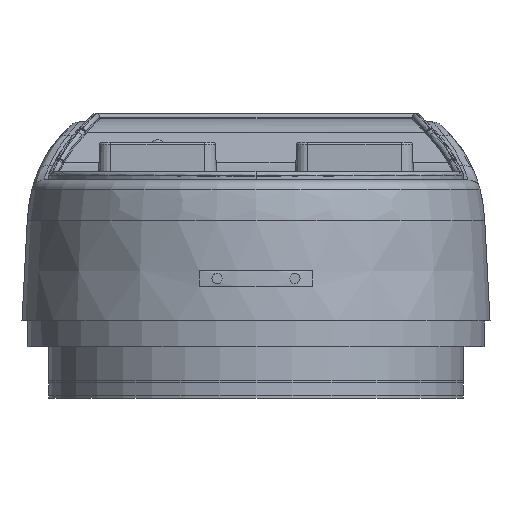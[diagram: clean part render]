
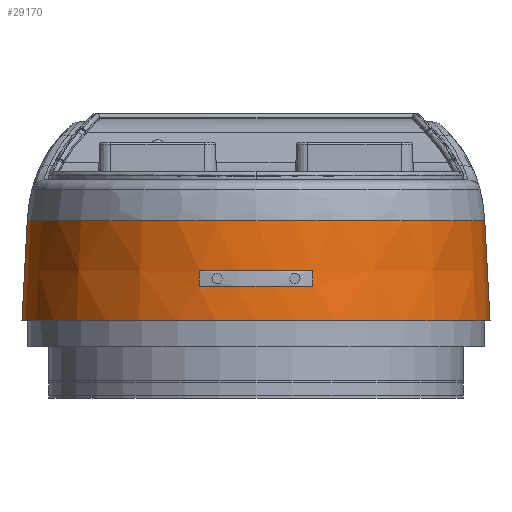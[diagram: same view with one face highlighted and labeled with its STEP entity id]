
A CAD part, front view. The second image highlights one B-rep face of the part: STEP entity #29170.
In plain terms, the highlighted conical face has half-angle 3 degrees and reference radius 22.55 mm.
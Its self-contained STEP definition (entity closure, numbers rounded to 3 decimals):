
#1274 = DIRECTION ( 'NONE',  ( 0., 0., 1. ) ) ;
#1505 = CARTESIAN_POINT ( 'NONE',  ( 0., -22.65, 9.15 ) ) ;
#1823 = CARTESIAN_POINT ( 'NONE',  ( 5.498, -44.284, 4.353 ) ) ;
#2349 = CARTESIAN_POINT ( 'NONE',  ( -22.07, -22.65, 9.15 ) ) ;
#4550 = CARTESIAN_POINT ( 'NONE',  ( 5.498, -44.311, 3.85 ) ) ;
#5348 =( BOUNDED_CURVE ( )  B_SPLINE_CURVE ( 3, ( #13005, #35825, #52684, #64049 ),
 .UNSPECIFIED., .F., .F. ) 
 B_SPLINE_CURVE_WITH_KNOTS ( ( 4, 4 ),
 ( 2.893, 3.39 ),
 .UNSPECIFIED. ) 
 CURVE ( )  GEOMETRIC_REPRESENTATION_ITEM ( )  RATIONAL_B_SPLINE_CURVE ( ( 1., 0.98, 0.98, 1. ) ) 
 REPRESENTATION_ITEM ( '' )  );
#5483 = VECTOR ( 'NONE', #69732, 1000. ) ;
#7301 = CARTESIAN_POINT ( 'NONE',  ( 5.499, -44.365, 2.846 ) ) ;
#10974 = ORIENTED_EDGE ( 'NONE', *, *, #25372, .F. ) ;
#12029 = B_SPLINE_CURVE_WITH_KNOTS ( 'NONE', 3,
 ( #65380, #49122, #65855, #20698 ),
 .UNSPECIFIED., .F., .F.,
 ( 4, 4 ),
 ( 0., 0.002 ),
 .UNSPECIFIED. ) ;
#13005 = CARTESIAN_POINT ( 'NONE',  ( 5.498, -44.284, 4.353 ) ) ;
#13153 = CIRCLE ( 'NONE', #22019, 22.07 ) ;
#13238 = DIRECTION ( 'NONE',  ( 0., 0., -1. ) ) ;
#13400 = CARTESIAN_POINT ( 'NONE',  ( 1.871, -45.285, 2.83 ) ) ;
#14197 = DIRECTION ( 'NONE',  ( 0.052, 0., -0.999 ) ) ;
#16361 = DIRECTION ( 'NONE',  ( 0., 0., -1. ) ) ;
#18515 = CARTESIAN_POINT ( 'NONE',  ( -1.871, -45.285, 2.83 ) ) ;
#18876 = EDGE_CURVE ( 'NONE', #58691, #20606, #31060, .T. ) ;
#19130 = ORIENTED_EDGE ( 'NONE', *, *, #37705, .F. ) ;
#19435 = EDGE_LOOP ( 'NONE', ( #49635, #66901, #63716, #19130 ) ) ;
#20606 = VERTEX_POINT ( 'NONE', #1823 ) ;
#20698 = CARTESIAN_POINT ( 'NONE',  ( -5.499, -44.365, 2.846 ) ) ;
#20895 = EDGE_CURVE ( 'NONE', #24563, #64374, #37588, .T. ) ;
#22019 = AXIS2_PLACEMENT_3D ( 'NONE', #1505, #1274, #61653 ) ;
#22866 = CARTESIAN_POINT ( 'NONE',  ( -5.499, -44.365, 2.846 ) ) ;
#24393 = CONICAL_SURFACE ( 'NONE', #68917, 22.55, 0.052 ) ;
#24563 = VERTEX_POINT ( 'NONE', #37380 ) ;
#25238 = CARTESIAN_POINT ( 'NONE',  ( -22.55, -22.65, 0. ) ) ;
#25372 = EDGE_CURVE ( 'NONE', #54248, #51714, #13153, .T. ) ;
#25573 = EDGE_CURVE ( 'NONE', #51714, #24563, #31433, .T. ) ;
#27206 =( BOUNDED_CURVE ( )  B_SPLINE_CURVE ( 3, ( #30155, #18515, #13400, #7301 ),
 .UNSPECIFIED., .F., .F. ) 
 B_SPLINE_CURVE_WITH_KNOTS ( ( 4, 4 ),
 ( 6.035, 6.531 ),
 .UNSPECIFIED. ) 
 CURVE ( )  GEOMETRIC_REPRESENTATION_ITEM ( )  RATIONAL_B_SPLINE_CURVE ( ( 1., 0.98, 0.98, 1. ) ) 
 REPRESENTATION_ITEM ( '' )  );
#27329 = EDGE_CURVE ( 'NONE', #67959, #28216, #12029, .T. ) ;
#27563 = DIRECTION ( 'NONE',  ( 1., 0., 0. ) ) ;
#28216 = VERTEX_POINT ( 'NONE', #22866 ) ;
#29170 = ADVANCED_FACE ( 'NONE', ( #39158, #36543 ), #24393, .T. ) ;
#30155 = CARTESIAN_POINT ( 'NONE',  ( -5.499, -44.365, 2.846 ) ) ;
#31060 = B_SPLINE_CURVE_WITH_KNOTS ( 'NONE', 3,
 ( #37891, #60305, #4550, #59824 ),
 .UNSPECIFIED., .F., .F.,
 ( 4, 4 ),
 ( 0., 0.002 ),
 .UNSPECIFIED. ) ;
#31433 = LINE ( 'NONE', #47028, #37488 ) ;
#33336 = EDGE_CURVE ( 'NONE', #54248, #64374, #65548, .T. ) ;
#34871 = EDGE_CURVE ( 'NONE', #20606, #67959, #5348, .T. ) ;
#35806 = CARTESIAN_POINT ( 'NONE',  ( -5.498, -44.284, 4.353 ) ) ;
#35825 = CARTESIAN_POINT ( 'NONE',  ( 1.871, -45.205, 4.369 ) ) ;
#35847 = ORIENTED_EDGE ( 'NONE', *, *, #25573, .F. ) ;
#36543 = FACE_BOUND ( 'NONE', #19435, .T. ) ;
#37380 = CARTESIAN_POINT ( 'NONE',  ( 22.576, -22.65, -0.5 ) ) ;
#37488 = VECTOR ( 'NONE', #14197, 1000. ) ;
#37588 = CIRCLE ( 'NONE', #60074, 22.576 ) ;
#37705 = EDGE_CURVE ( 'NONE', #28216, #58691, #27206, .T. ) ;
#37891 = CARTESIAN_POINT ( 'NONE',  ( 5.499, -44.365, 2.846 ) ) ;
#39158 = FACE_OUTER_BOUND ( 'NONE', #70085, .T. ) ;
#41019 = CARTESIAN_POINT ( 'NONE',  ( 22.07, -22.65, 9.15 ) ) ;
#41122 = CARTESIAN_POINT ( 'NONE',  ( -22.576, -22.65, -0.5 ) ) ;
#44228 = ORIENTED_EDGE ( 'NONE', *, *, #20895, .F. ) ;
#45066 = DIRECTION ( 'NONE',  ( -1., 0., 0. ) ) ;
#47028 = CARTESIAN_POINT ( 'NONE',  ( 22.55, -22.65, 0. ) ) ;
#49122 = CARTESIAN_POINT ( 'NONE',  ( -5.498, -44.311, 3.85 ) ) ;
#49635 = ORIENTED_EDGE ( 'NONE', *, *, #27329, .F. ) ;
#51714 = VERTEX_POINT ( 'NONE', #41019 ) ;
#52684 = CARTESIAN_POINT ( 'NONE',  ( -1.871, -45.205, 4.369 ) ) ;
#54248 = VERTEX_POINT ( 'NONE', #2349 ) ;
#55104 = CARTESIAN_POINT ( 'NONE',  ( 0., -22.65, 0. ) ) ;
#58691 = VERTEX_POINT ( 'NONE', #62204 ) ;
#59824 = CARTESIAN_POINT ( 'NONE',  ( 5.498, -44.284, 4.353 ) ) ;
#60074 = AXIS2_PLACEMENT_3D ( 'NONE', #68956, #13238, #45066 ) ;
#60305 = CARTESIAN_POINT ( 'NONE',  ( 5.499, -44.338, 3.348 ) ) ;
#60994 = ORIENTED_EDGE ( 'NONE', *, *, #33336, .T. ) ;
#61653 = DIRECTION ( 'NONE',  ( 1., 0., 0. ) ) ;
#62204 = CARTESIAN_POINT ( 'NONE',  ( 5.499, -44.365, 2.846 ) ) ;
#63716 = ORIENTED_EDGE ( 'NONE', *, *, #18876, .F. ) ;
#64049 = CARTESIAN_POINT ( 'NONE',  ( -5.498, -44.284, 4.353 ) ) ;
#64374 = VERTEX_POINT ( 'NONE', #41122 ) ;
#65380 = CARTESIAN_POINT ( 'NONE',  ( -5.498, -44.284, 4.353 ) ) ;
#65548 = LINE ( 'NONE', #25238, #5483 ) ;
#65855 = CARTESIAN_POINT ( 'NONE',  ( -5.499, -44.338, 3.348 ) ) ;
#66901 = ORIENTED_EDGE ( 'NONE', *, *, #34871, .F. ) ;
#67959 = VERTEX_POINT ( 'NONE', #35806 ) ;
#68917 = AXIS2_PLACEMENT_3D ( 'NONE', #55104, #16361, #27563 ) ;
#68956 = CARTESIAN_POINT ( 'NONE',  ( 0., -22.65, -0.5 ) ) ;
#69732 = DIRECTION ( 'NONE',  ( -0.052, 0., -0.999 ) ) ;
#70085 = EDGE_LOOP ( 'NONE', ( #10974, #60994, #44228, #35847 ) ) ;
